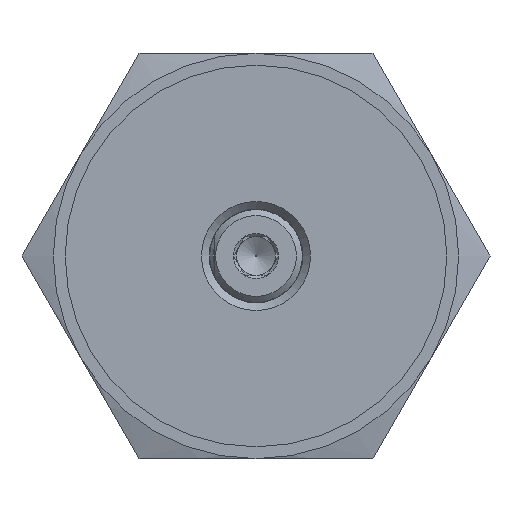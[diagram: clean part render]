
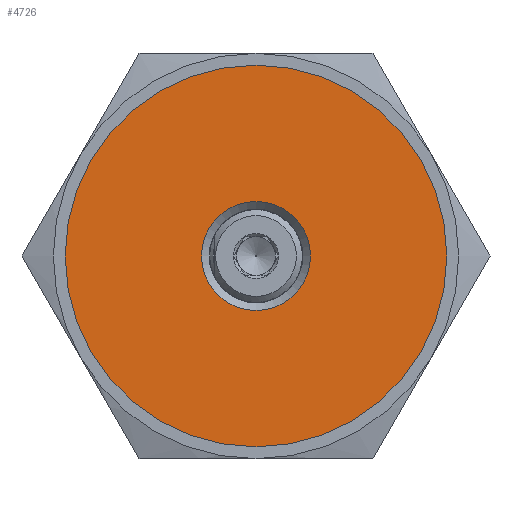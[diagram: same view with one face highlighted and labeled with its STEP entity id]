
A CAD part, left-side view. The second image highlights one B-rep face of the part: STEP entity #4726.
In plain terms, the highlighted planar face has unit normal (-1, 0, 0).
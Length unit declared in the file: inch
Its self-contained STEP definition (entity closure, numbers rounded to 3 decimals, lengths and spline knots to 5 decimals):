
#4692=CARTESIAN_POINT('',(-3.11,-0.765,0.));
#4693=VERTEX_POINT('',#4692);
#4694=CARTESIAN_POINT('',(-3.11,0.0,0.));
#4695=DIRECTION('',(-1.0,0.0,0.0));
#4696=DIRECTION('',(0.0,-1.0,0.0));
#4697=AXIS2_PLACEMENT_3D('',#4694,#4695,#4696);
#4698=CIRCLE('',#4697,0.765);
#4699=EDGE_CURVE('',#4693,#4693,#4698,.T.);
#4707=CARTESIAN_POINT('',(-3.11,-0.49175,0.));
#4708=DIRECTION('',(-1.0,0.0,0.0));
#4709=DIRECTION('',(0.0,0.0,1.0));
#4710=AXIS2_PLACEMENT_3D('',#4707,#4708,#4709);
#4711=PLANE('',#4710);
#4712=ORIENTED_EDGE('',*,*,#4699,.T.);
#4713=EDGE_LOOP('',(#4712));
#4714=FACE_OUTER_BOUND('',#4713,.T.);
#4715=CARTESIAN_POINT('',(-3.11,-0.2185,0.));
#4716=VERTEX_POINT('',#4715);
#4717=CARTESIAN_POINT('',(-3.11,0.0,0.));
#4718=DIRECTION('',(-1.0,0.0,0.0));
#4719=DIRECTION('',(0.0,-1.0,0.0));
#4720=AXIS2_PLACEMENT_3D('',#4717,#4718,#4719);
#4721=CIRCLE('',#4720,0.2185);
#4722=EDGE_CURVE('',#4716,#4716,#4721,.T.);
#4723=ORIENTED_EDGE('',*,*,#4722,.F.);
#4724=EDGE_LOOP('',(#4723));
#4725=FACE_BOUND('',#4724,.T.);
#4726=ADVANCED_FACE('',(#4714,#4725),#4711,.T.);
